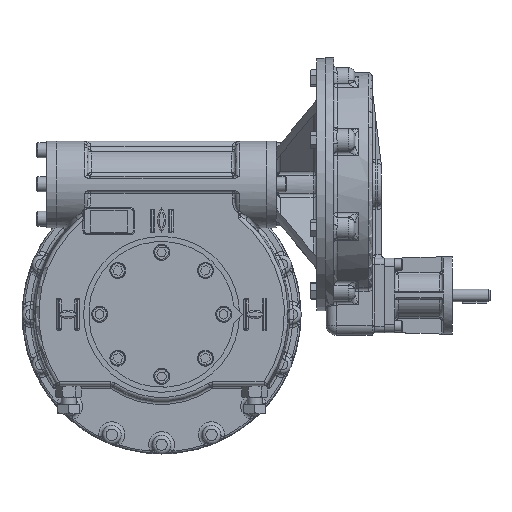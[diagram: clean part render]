
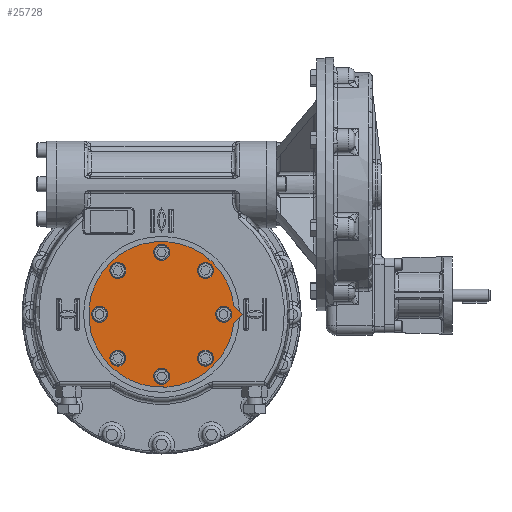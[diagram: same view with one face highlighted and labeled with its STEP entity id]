
A CAD part, top view. The second image highlights one B-rep face of the part: STEP entity #25728.
In plain terms, the highlighted planar face has unit normal (0, 0, 1).
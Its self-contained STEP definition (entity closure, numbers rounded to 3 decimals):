
#2464=PLANE('',#29295);
#4011=LINE('',#71614,#5570);
#4013=LINE('',#71617,#5572);
#5570=VECTOR('',#35421,1000.);
#5572=VECTOR('',#35425,1000.);
#12171=ORIENTED_EDGE('',*,*,#16511,.F.);
#12172=ORIENTED_EDGE('',*,*,#16512,.F.);
#12173=ORIENTED_EDGE('',*,*,#16513,.F.);
#12174=ORIENTED_EDGE('',*,*,#16514,.F.);
#12175=ORIENTED_EDGE('',*,*,#16515,.F.);
#12176=ORIENTED_EDGE('',*,*,#16516,.F.);
#12177=ORIENTED_EDGE('',*,*,#16517,.F.);
#12178=ORIENTED_EDGE('',*,*,#16518,.F.);
#12179=ORIENTED_EDGE('',*,*,#16496,.T.);
#12180=ORIENTED_EDGE('',*,*,#16500,.T.);
#12181=ORIENTED_EDGE('',*,*,#16502,.T.);
#16496=EDGE_CURVE('',#19563,#19562,#20855,.T.);
#16500=EDGE_CURVE('',#19562,#19565,#4011,.T.);
#16502=EDGE_CURVE('',#19565,#19563,#4013,.T.);
#16511=EDGE_CURVE('',#19574,#19574,#20864,.T.);
#16512=EDGE_CURVE('',#19575,#19575,#20865,.T.);
#16513=EDGE_CURVE('',#19576,#19576,#20866,.T.);
#16514=EDGE_CURVE('',#19577,#19577,#20867,.T.);
#16515=EDGE_CURVE('',#19578,#19578,#20868,.T.);
#16516=EDGE_CURVE('',#19579,#19579,#20869,.T.);
#16517=EDGE_CURVE('',#19580,#19580,#20870,.T.);
#16518=EDGE_CURVE('',#19581,#19581,#20871,.T.);
#19562=VERTEX_POINT('',#71605);
#19563=VERTEX_POINT('',#71607);
#19565=VERTEX_POINT('',#71613);
#19574=VERTEX_POINT('',#71637);
#19575=VERTEX_POINT('',#71639);
#19576=VERTEX_POINT('',#71641);
#19577=VERTEX_POINT('',#71643);
#19578=VERTEX_POINT('',#71645);
#19579=VERTEX_POINT('',#71647);
#19580=VERTEX_POINT('',#71649);
#19581=VERTEX_POINT('',#71651);
#20855=CIRCLE('',#29283,117.5);
#20864=CIRCLE('',#29296,8.5);
#20865=CIRCLE('',#29297,8.5);
#20866=CIRCLE('',#29298,8.5);
#20867=CIRCLE('',#29299,8.5);
#20868=CIRCLE('',#29300,8.5);
#20869=CIRCLE('',#29301,8.5);
#20870=CIRCLE('',#29302,8.5);
#20871=CIRCLE('',#29303,8.5);
#22442=EDGE_LOOP('',(#12171));
#22443=EDGE_LOOP('',(#12172));
#22444=EDGE_LOOP('',(#12173));
#22445=EDGE_LOOP('',(#12174));
#22446=EDGE_LOOP('',(#12175));
#22447=EDGE_LOOP('',(#12176));
#22448=EDGE_LOOP('',(#12177));
#22449=EDGE_LOOP('',(#12178));
#22450=EDGE_LOOP('',(#12179,#12180,#12181));
#24059=FACE_BOUND('',#22442,.T.);
#24060=FACE_BOUND('',#22443,.T.);
#24061=FACE_BOUND('',#22444,.T.);
#24062=FACE_BOUND('',#22445,.T.);
#24063=FACE_BOUND('',#22446,.T.);
#24064=FACE_BOUND('',#22447,.T.);
#24065=FACE_BOUND('',#22448,.T.);
#24066=FACE_BOUND('',#22449,.T.);
#24067=FACE_BOUND('',#22450,.T.);
#25728=ADVANCED_FACE('',(#24059,#24060,#24061,#24062,#24063,#24064,#24065,
#24066,#24067),#2464,.T.);
#29283=AXIS2_PLACEMENT_3D('',#71606,#35414,#35415);
#29295=AXIS2_PLACEMENT_3D('',#71635,#35444,#35445);
#29296=AXIS2_PLACEMENT_3D('',#71636,#35446,#35447);
#29297=AXIS2_PLACEMENT_3D('',#71638,#35448,#35449);
#29298=AXIS2_PLACEMENT_3D('',#71640,#35450,#35451);
#29299=AXIS2_PLACEMENT_3D('',#71642,#35452,#35453);
#29300=AXIS2_PLACEMENT_3D('',#71644,#35454,#35455);
#29301=AXIS2_PLACEMENT_3D('',#71646,#35456,#35457);
#29302=AXIS2_PLACEMENT_3D('',#71648,#35458,#35459);
#29303=AXIS2_PLACEMENT_3D('',#71650,#35460,#35461);
#35414=DIRECTION('',(0.,0.,1.));
#35415=DIRECTION('',(1.,0.,0.));
#35421=DIRECTION('',(0.707,0.707,0.));
#35425=DIRECTION('',(-0.707,0.707,0.));
#35444=DIRECTION('',(0.,0.,1.));
#35445=DIRECTION('',(0.,-1.,0.));
#35446=DIRECTION('',(0.,0.,1.));
#35447=DIRECTION('',(0.707,-0.707,0.));
#35448=DIRECTION('',(0.,0.,1.));
#35449=DIRECTION('',(1.,0.,0.));
#35450=DIRECTION('',(0.,0.,1.));
#35451=DIRECTION('',(0.707,0.707,0.));
#35452=DIRECTION('',(0.,0.,1.));
#35453=DIRECTION('',(0.,1.,0.));
#35454=DIRECTION('',(0.,0.,1.));
#35455=DIRECTION('',(-0.707,0.707,0.));
#35456=DIRECTION('',(0.,0.,1.));
#35457=DIRECTION('',(-1.,0.,0.));
#35458=DIRECTION('',(0.,0.,1.));
#35459=DIRECTION('',(-0.707,-0.707,0.));
#35460=DIRECTION('',(0.,0.,1.));
#35461=DIRECTION('',(0.,-1.,0.));
#71605=CARTESIAN_POINT('',(116.751,-13.249,65.25));
#71606=CARTESIAN_POINT('',(0.,0.,65.25));
#71607=CARTESIAN_POINT('',(116.751,13.249,65.25));
#71613=CARTESIAN_POINT('',(130.,0.,65.25));
#71614=CARTESIAN_POINT('',(116.751,-13.249,65.25));
#71617=CARTESIAN_POINT('',(130.,0.,65.25));
#71635=CARTESIAN_POINT('',(0.,0.,65.25));
#71636=CARTESIAN_POINT('',(70.711,70.711,65.25));
#71637=CARTESIAN_POINT('',(76.721,64.7,65.25));
#71638=CARTESIAN_POINT('',(0.,100.,65.25));
#71639=CARTESIAN_POINT('',(8.5,100.,65.25));
#71640=CARTESIAN_POINT('',(-70.711,70.711,65.25));
#71641=CARTESIAN_POINT('',(-64.7,76.721,65.25));
#71642=CARTESIAN_POINT('',(-100.,0.,65.25));
#71643=CARTESIAN_POINT('',(-100.,8.5,65.25));
#71644=CARTESIAN_POINT('',(-70.711,-70.711,65.25));
#71645=CARTESIAN_POINT('',(-76.721,-64.7,65.25));
#71646=CARTESIAN_POINT('',(0.,-100.,65.25));
#71647=CARTESIAN_POINT('',(-8.5,-100.,65.25));
#71648=CARTESIAN_POINT('',(70.711,-70.711,65.25));
#71649=CARTESIAN_POINT('',(64.7,-76.721,65.25));
#71650=CARTESIAN_POINT('',(100.,0.,65.25));
#71651=CARTESIAN_POINT('',(100.,-8.5,65.25));
